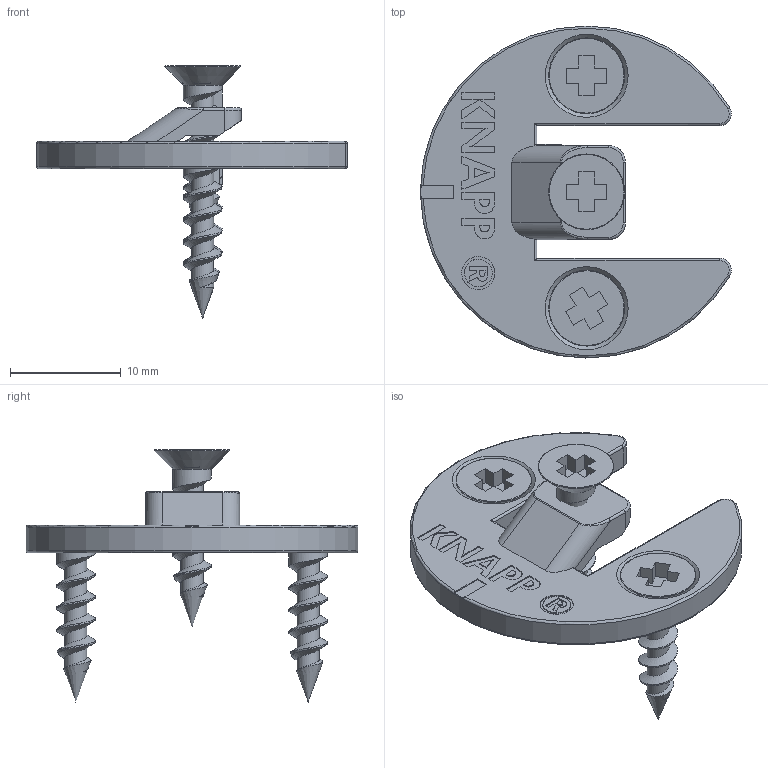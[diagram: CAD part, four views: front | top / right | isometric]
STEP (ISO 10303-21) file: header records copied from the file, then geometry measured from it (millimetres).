
FILE_DESCRIPTION( ( 'Unknown' ), '1' );
FILE_NAME( 'S:/Solid Edge - Zeichnungen/Verbindungssysteme/DUO/Produkte/DUO30ml_Scr3-5x16.stp', 'Unknown', ( 'Unknown' ), ( 'Unknown' ), 'PSStep 13.0', 'Unknown', ' ' );
FILE_SCHEMA( ( 'AUTOMOTIVE_DESIGN { 1 0 10303 214 1 1 1 1 }' ) );
Length unit declared in the file: millimetre
Products named in the file (3): Assem1; Duo 30; SK Schraube 3,5x16
Bounding box: 28.08 x 30 x 22.79 mm (x, y, z)
Volume: 2759 mm3; surface area: 3575.8 mm2
Topology: 5 solids, 5 shells, 415 faces, 1094 edges, 713 vertices
Faces by surface type: plane 229, extrusion 88, cylinder 53, torus 19, bspline 13, cone 13
Full cylindrical faces by diameter (mm): 3.5 x12, 4 x4
Entity records: 12625 total; most frequent: CARTESIAN_POINT 8128, ORIENTED_EDGE 968, DIRECTION 776, EDGE_CURVE 484, VECTOR 372, LINE 328, VERTEX_POINT 320, EDGE_LOOP 213
